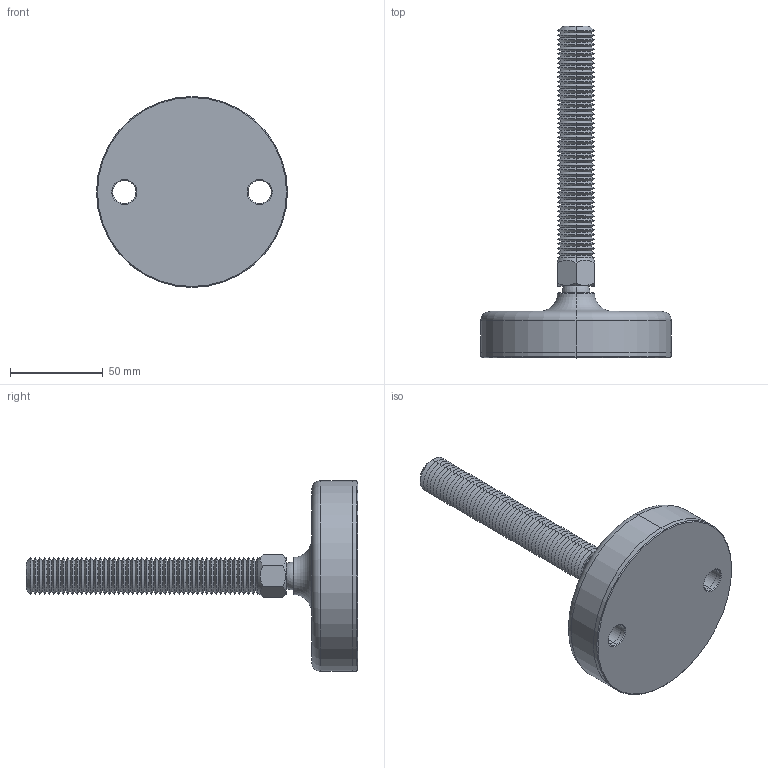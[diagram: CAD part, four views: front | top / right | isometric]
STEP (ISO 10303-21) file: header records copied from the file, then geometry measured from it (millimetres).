
FILE_DESCRIPTION (( 'STEP AP203' ), '1' );
FILE_NAME ('34724.W2009.step', '2019-11-28T22:18:00', ( '' ), ( '' ), 'SwSTEP 2.0', 'SolidWorks 2017', '' );
FILE_SCHEMA (( 'CONFIG_CONTROL_DESIGN' ));
Length unit declared in the file: millimetre
Products named in the file (4): 34724.W2009; Part3_34724.W2009; Part1_34724.W2009; Part2_34724.W2009
Assembly tree (3 placements, depth 2):
  34724.W2009
    Part1_34724.W2009
    Part2_34724.W2009
    Part3_34724.W2009
Bounding box: 103 x 179 x 103 mm (x, y, z)
Volume: 242306.8 mm3; surface area: 58086 mm2
Topology: 3 solids, 3 shells, 248 faces, 511 edges, 269 vertices
Faces by surface type: cone 214, plane 14, cylinder 12, sphere 4, torus 4
Entity records: 6866 total; most frequent: DIRECTION 1256, CARTESIAN_POINT 1172, ORIENTED_EDGE 1004, AXIS2_PLACEMENT_3D 512, EDGE_CURVE 502, VERTEX_POINT 264, EDGE_LOOP 260, CIRCLE 258
